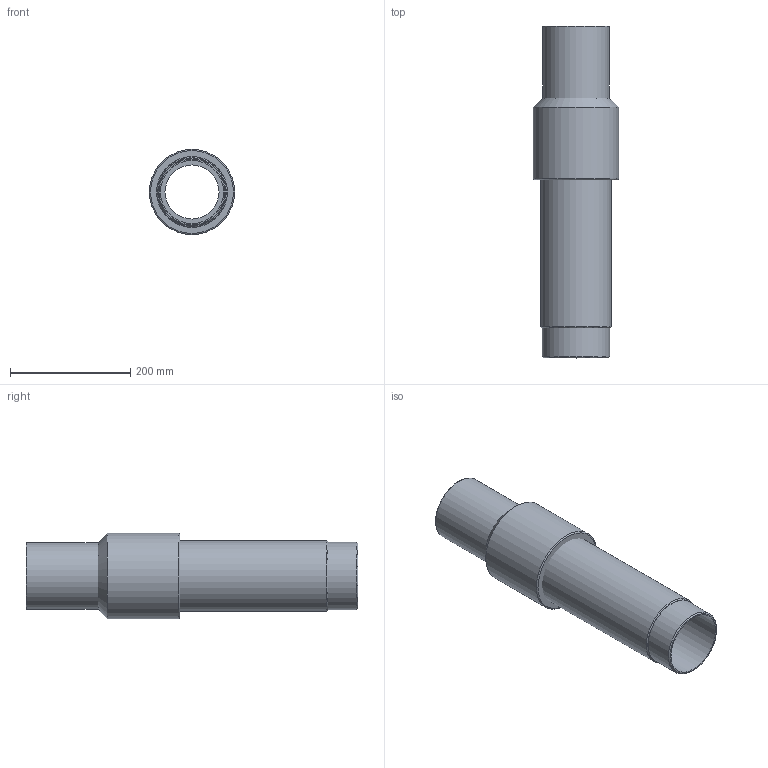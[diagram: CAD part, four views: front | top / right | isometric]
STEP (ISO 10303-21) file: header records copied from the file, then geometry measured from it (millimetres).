
FILE_DESCRIPTION(/* description */ ('Unknown'),/* implementation_level */ '2;1');
FILE_NAME(/* name */ 'RTSZRP110C',/* time_stamp */ '2022-04-27T10:11:15+02:00',/* author */ ('Unknown'),/* organization */ ('Unknown'),/* preprocessor_version */ 'ST-DEVELOPER v18.1',/* originating_system */ 'Solid Edge',/* authorisation */ 'Unknown');
FILE_SCHEMA (('AUTOMOTIVE_DESIGN {1 0 10303 214 3 1 1}'));
Length unit declared in the file: millimetre
Products named in the file (4): RTSZRP110C; Partea ACCIAIO; copertura tubo; Parte PE_
Assembly tree (3 placements, depth 2):
  RTSZRP110C
    Partea ACCIAIO
    copertura tubo
    Parte PE_
Bounding box: 142 x 553 x 142 mm (x, y, z)
Volume: 2020672.1 mm3; surface area: 761090.4 mm2
Topology: 3 solids, 3 shells, 21 faces, 38 edges, 24 vertices
Faces by surface type: cylinder 9, plane 7, cone 3, torus 2
Full cylindrical faces by diameter (mm): 90 x1, 105.3 x1, 110 x1, 113.3 x1, 114.3 x3, 117.9 x1, 142 x1
Entity records: 538 total; most frequent: DIRECTION 92, CARTESIAN_POINT 67, AXIS2_PLACEMENT_3D 46, ORIENTED_EDGE 42, EDGE_LOOP 42, FACE_BOUND 42, EDGE_CURVE 21, VERTEX_POINT 21
